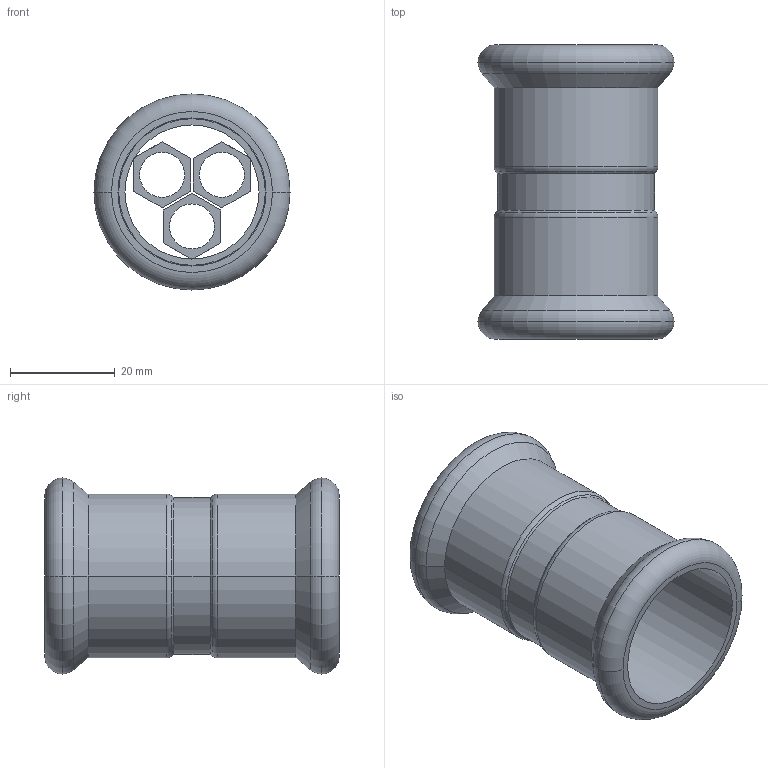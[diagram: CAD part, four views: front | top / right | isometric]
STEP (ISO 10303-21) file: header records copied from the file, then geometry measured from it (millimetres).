
FILE_DESCRIPTION(('OneSpaceDesigner STEP Export'),'2;1');
FILE_NAME('R2701 28x28.stp','2010-06-08T13:10:00',(''),(''),'OneSpace Designer STEP processor for AP214 (Solid Model)','OneSpace Modeling 15.00A 14-Mar-2007 (C) CoCreate Software GmbH','');
FILE_SCHEMA(('AUTOMOTIVE_DESIGN { 1 0 10303 214 1 1 1 1 }'));
Length unit declared in the file: millimetre
Products named in the file (2): R2701_28x28
Assembly tree (1 placements, depth 2):
  R2701_28x28
    R2701_28x28
Bounding box: 37.45 x 56.2 x 37.45 mm (x, y, z)
Volume: 12803.3 mm3; surface area: 13332.1 mm2
Topology: 1 solids, 1 shells, 114 faces, 282 edges, 180 vertices
Faces by surface type: plane 60, cylinder 34, torus 12, cone 8
Entity records: 3075 total; most frequent: ORIENTED_EDGE 564, CARTESIAN_POINT 502, DIRECTION 470, EDGE_CURVE 282, VERTEX_POINT 180, VECTOR 174, LINE 174, AXIS2_PLACEMENT_3D 148
